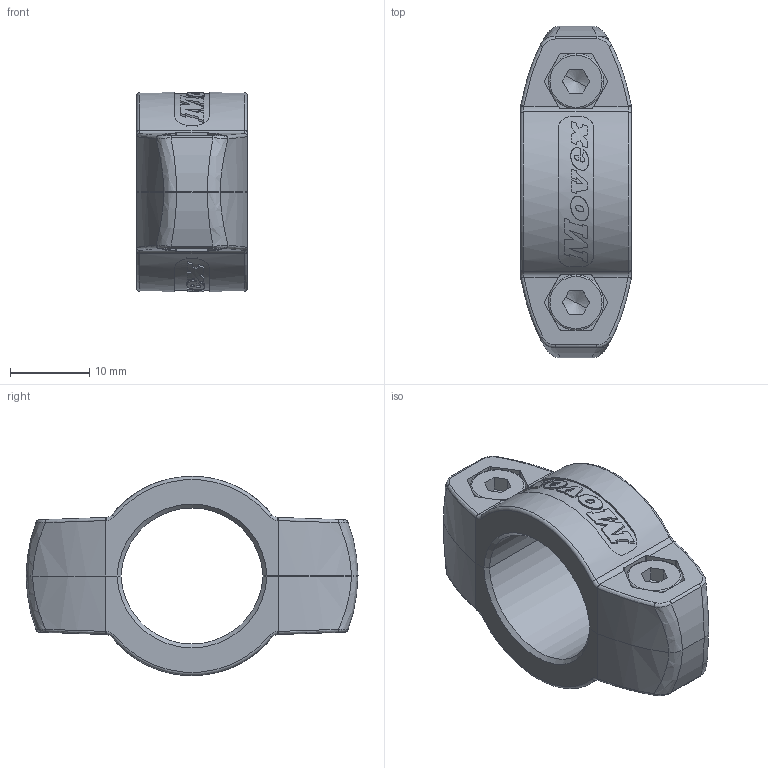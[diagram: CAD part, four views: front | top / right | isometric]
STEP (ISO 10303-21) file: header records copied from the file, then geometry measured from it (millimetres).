
FILE_DESCRIPTION(('CATIA V5 STEP Exchange'),'2;1');
FILE_NAME('X:\CODICI MOVEX\3D per clienti\3D definitivi\Part 200\P21503_01.stp','2016-08-05T06:46:21+00:00',('none'),('none'),'Version 5-6 Release 2012','CATIA V5 STEP AP203','none');
FILE_SCHEMA(('CONFIG_CONTROL_DESIGN'));
Length unit declared in the file: millimetre
Products named in the file (1): P21503_01
Assembly tree (6 placements, depth 2):
  P21503_01
    #58  x2
    #19229  x2
    #19884  x2
Bounding box: 14 x 41.99 x 25.2 mm (x, y, z)
Volume: 6140.3 mm3; surface area: 5066 mm2
Topology: 6 solids, 6 shells, 1132 faces, 3250 edges, 2150 vertices
Faces by surface type: plane 944, cylinder 92, cone 44, bspline 24, torus 20, extrusion 8
Entity records: 20693 total; most frequent: CARTESIAN_POINT 7859, ORIENTED_EDGE 3250, DIRECTION 1706, EDGE_CURVE 1625, VERTEX_POINT 1075, B_SPLINE_CURVE_WITH_KNOTS 961, AXIS2_PLACEMENT_3D 674, EDGE_LOOP 582
